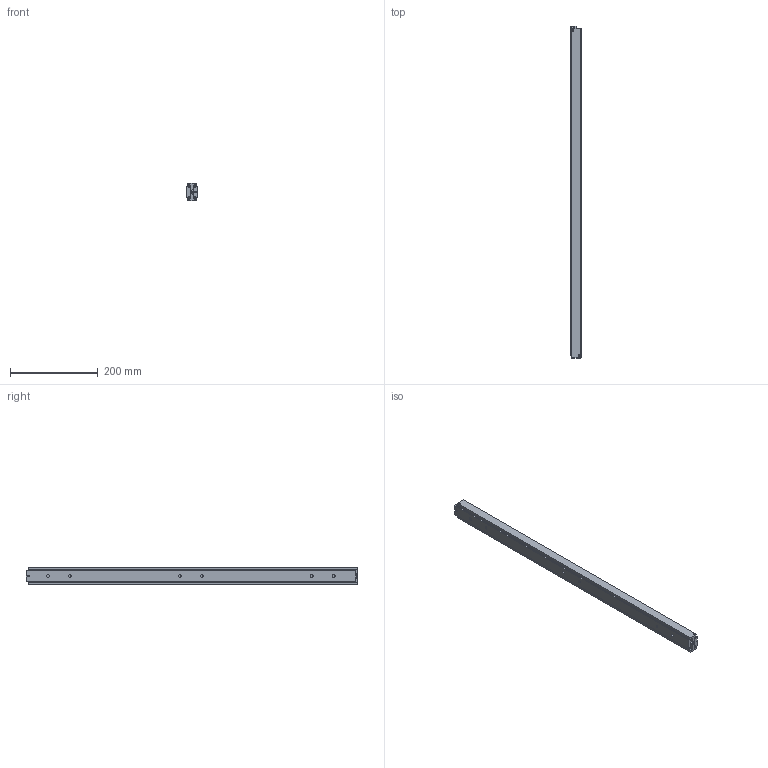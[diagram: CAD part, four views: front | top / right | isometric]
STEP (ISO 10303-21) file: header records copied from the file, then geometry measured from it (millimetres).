
FILE_DESCRIPTION(/* description */ (''),/* implementation_level */ '2;1');
FILE_NAME(/* name */ 'C:\Users\Miluxor\Desktop\Miluxor Schienen\Original Zeichnungen\Zeichnungen Schienen Komplett\MX-DTP40\MX-DTP40.075\MX.stp',/* time_stamp */ '2019-01-26T10:44:08+01:00',/* author */ ('Miluxor'),/* organization */ (''),/* preprocessor_version */ 'ST-DEVELOPER v16.13',/* originating_system */ 'AutoCAD Mechanical',/* authorisation */ '');
FILE_SCHEMA (('AUTOMOTIVE_DESIGN { 1 0 10303 214 3 1 1 }'));
Products named in the file (1): Product
Bounding box: 24 x 755 x 40.5 mm (x, y, z)
Volume: 569409.9 mm3; surface area: 287316.4 mm2
Topology: 95 solids, 95 shells, 618 faces, 1580 edges, 1048 vertices
Faces by surface type: plane 392, cylinder 88, bspline 68, sphere 56, cone 8, torus 6
Full cylindrical faces by diameter (mm): 4 x2, 6 x68, 10 x2
Entity records: 55201 total; most frequent: CARTESIAN_POINT 41077, ORIENTED_EDGE 2744, DIRECTION 2556, EDGE_CURVE 1372, VERTEX_POINT 1038, LINE 930, VECTOR 930, EDGE_LOOP 848
